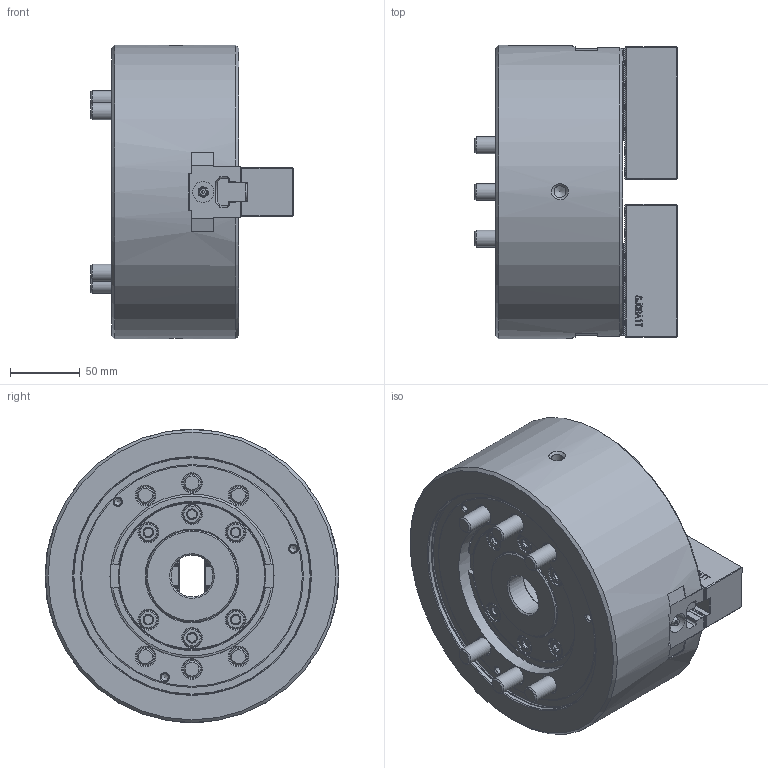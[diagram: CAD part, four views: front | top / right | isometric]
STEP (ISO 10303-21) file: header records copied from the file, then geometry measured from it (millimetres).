
FILE_DESCRIPTION (( 'STEP AP214' ), '1' );
FILE_NAME ('DT1_BT208_OUTSIDE_VIEW_HCL.STEP', '2024-05-09T00:43:00', ( '' ), ( '' ), 'SwSTEP 2.0', 'SolidWorks 2022', '' );
FILE_SCHEMA (( 'AUTOMOTIVE_DESIGN' ));
Length unit declared in the file: millimetre
Products named in the file (9): DT1_BT208_M12x90^DT1-BT208_ﾃﾞﾌｫﾙﾄ; DT1_BT208_SOFTJAW^DT1-BT208_ﾃﾞﾌｫﾙﾄ; DT1_BT208_M12x30^DT1-BT208_ﾃﾞﾌｫﾙﾄ; DT1_BT208_OUTSIDE_VIEW_HCL; DT1_BT208_TNUT^DT1-BT208_ﾃﾞﾌｫﾙﾄ; DT1_BT208_BASE^DT1-BT208_ﾃﾞﾌｫﾙﾄ; DT1_BT208_DRAWNUT^DT1-BT208_ﾃﾞﾌｫﾙﾄ; DT1_BT208_COVER^DT1-BT208_ﾃﾞﾌｫﾙﾄ; DT1_BT208_M5x10^DT1-BT208_ﾃﾞﾌｫﾙﾄ
Assembly tree (21 placements, depth 2):
  DT1_BT208_OUTSIDE_VIEW_HCL
    DT1_BT208_SOFTJAW^DT1-BT208_ﾃﾞﾌｫﾙﾄ  x2
    DT1_BT208_TNUT^DT1-BT208_ﾃﾞﾌｫﾙﾄ  x2
    DT1_BT208_DRAWNUT^DT1-BT208_ﾃﾞﾌｫﾙﾄ
    DT1_BT208_COVER^DT1-BT208_ﾃﾞﾌｫﾙﾄ
    DT1_BT208_BASE^DT1-BT208_ﾃﾞﾌｫﾙﾄ
    DT1_BT208_M5x10^DT1-BT208_ﾃﾞﾌｫﾙﾄ  x4
    DT1_BT208_M12x30^DT1-BT208_ﾃﾞﾌｫﾙﾄ  x4
    DT1_BT208_M12x90^DT1-BT208_ﾃﾞﾌｫﾙﾄ  x6
Bounding box: 145 x 210 x 210 mm (x, y, z)
Volume: 2985412.3 mm3; surface area: 321696.6 mm2
Topology: 21 solids, 21 shells, 3222 faces, 9039 edges, 5970 vertices
Faces by surface type: plane 2125, cylinder 594, bspline 286, cone 192, torus 23, sphere 2
Full cylindrical faces by diameter (mm): 2 x2, 4.2 x4, 5 x7, 5.5 x4, 8.5 x2, 9.5 x4, 10 x4, 10.2 x4, 12 x10, 13 x4, 13.27 x6, 13.5 x6, 14 x6, 15 x2, 18.27 x10, 19 x4, 20 x6, 30 x1, 52 x1, 56 x2, 61 x1, 64.8 x2, 66 x2, 72 x2, 105.2 x1, 117.5 x1, 170 x1, 170.8 x1, 210 x1
Entity records: 81911 total; most frequent: CARTESIAN_POINT 25176, ORIENTED_EDGE 12756, DIRECTION 9818, EDGE_CURVE 6378, VECTOR 4660, LINE 4660, VERTEX_POINT 4305, EDGE_LOOP 2627
